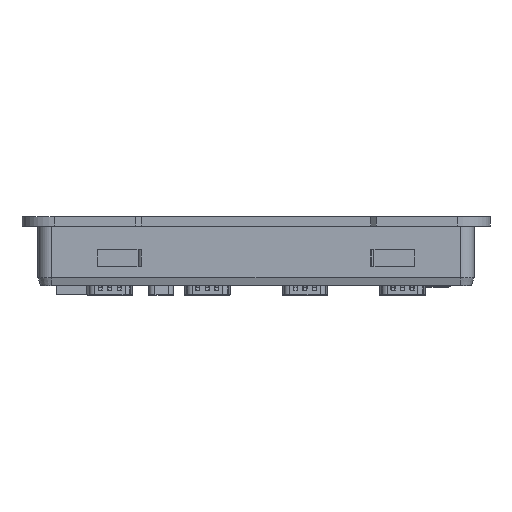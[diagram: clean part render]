
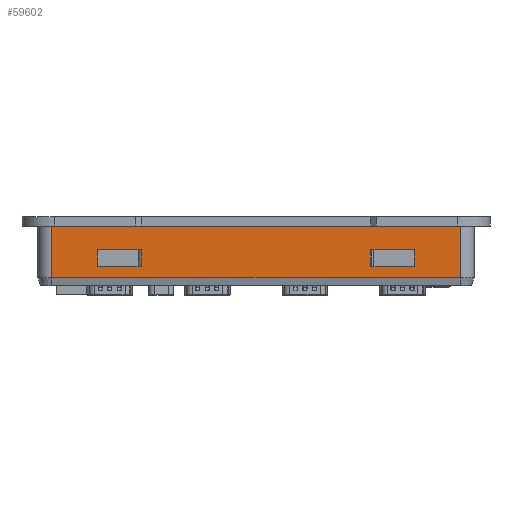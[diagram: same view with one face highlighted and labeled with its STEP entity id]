
A CAD part, left-side view. The second image highlights one B-rep face of the part: STEP entity #59602.
In plain terms, the highlighted planar face has unit normal (-1, 0, 0).
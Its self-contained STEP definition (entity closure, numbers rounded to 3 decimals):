
#3320=FACE_BOUND('',#14352,.T.);
#3321=FACE_BOUND('',#14353,.T.);
#10565=FACE_OUTER_BOUND('',#14351,.T.);
#14351=EDGE_LOOP('',(#53465,#53466,#53467,#53468));
#14352=EDGE_LOOP('',(#53469,#53470,#53471,#53472));
#14353=EDGE_LOOP('',(#53473,#53474,#53475,#53476));
#17976=LINE('',#152072,#22107);
#17979=LINE('',#152077,#22110);
#17981=LINE('',#152081,#22112);
#17983=LINE('',#152084,#22114);
#17988=LINE('',#152097,#22119);
#17991=LINE('',#152102,#22122);
#17994=LINE('',#152108,#22125);
#17997=LINE('',#152113,#22128);
#18282=LINE('',#153597,#22413);
#18337=LINE('',#153720,#22468);
#18342=LINE('',#153734,#22473);
#18344=LINE('',#153739,#22475);
#22107=VECTOR('',#78349,10.);
#22110=VECTOR('',#78354,10.);
#22112=VECTOR('',#78358,10.);
#22114=VECTOR('',#78362,10.);
#22119=VECTOR('',#78371,10.);
#22122=VECTOR('',#78376,10.);
#22125=VECTOR('',#78381,10.);
#22128=VECTOR('',#78386,10.);
#22413=VECTOR('',#78987,10.);
#22468=VECTOR('',#79110,10.);
#22473=VECTOR('',#79127,10.);
#22475=VECTOR('',#79133,10.);
#27894=VERTEX_POINT('',#152070);
#27895=VERTEX_POINT('',#152071);
#27896=VERTEX_POINT('',#152076);
#27897=VERTEX_POINT('',#152080);
#27902=VERTEX_POINT('',#152095);
#27903=VERTEX_POINT('',#152096);
#27904=VERTEX_POINT('',#152101);
#27906=VERTEX_POINT('',#152107);
#28167=VERTEX_POINT('',#153593);
#28168=VERTEX_POINT('',#153595);
#28202=VERTEX_POINT('',#153719);
#28205=VERTEX_POINT('',#153733);
#36250=EDGE_CURVE('',#27894,#27895,#17976,.T.);
#36253=EDGE_CURVE('',#27896,#27894,#17979,.T.);
#36255=EDGE_CURVE('',#27897,#27896,#17981,.T.);
#36257=EDGE_CURVE('',#27895,#27897,#17983,.T.);
#36262=EDGE_CURVE('',#27902,#27903,#17988,.T.);
#36265=EDGE_CURVE('',#27904,#27902,#17991,.T.);
#36268=EDGE_CURVE('',#27906,#27904,#17994,.T.);
#36271=EDGE_CURVE('',#27903,#27906,#17997,.T.);
#36680=EDGE_CURVE('',#28168,#28167,#18282,.T.);
#36741=EDGE_CURVE('',#28167,#28202,#18337,.T.);
#36748=EDGE_CURVE('',#28202,#28205,#18342,.T.);
#36751=EDGE_CURVE('',#28168,#28205,#18344,.T.);
#53465=ORIENTED_EDGE('',*,*,#36751,.T.);
#53466=ORIENTED_EDGE('',*,*,#36748,.F.);
#53467=ORIENTED_EDGE('',*,*,#36741,.F.);
#53468=ORIENTED_EDGE('',*,*,#36680,.F.);
#53469=ORIENTED_EDGE('',*,*,#36250,.T.);
#53470=ORIENTED_EDGE('',*,*,#36257,.T.);
#53471=ORIENTED_EDGE('',*,*,#36255,.T.);
#53472=ORIENTED_EDGE('',*,*,#36253,.T.);
#53473=ORIENTED_EDGE('',*,*,#36262,.T.);
#53474=ORIENTED_EDGE('',*,*,#36271,.T.);
#53475=ORIENTED_EDGE('',*,*,#36268,.T.);
#53476=ORIENTED_EDGE('',*,*,#36265,.T.);
#56263=PLANE('',#64964);
#59602=ADVANCED_FACE('',(#10565,#3320,#3321),#56263,.T.);
#64964=AXIS2_PLACEMENT_3D('',#153738,#79131,#79132);
#78349=DIRECTION('',(0.,0.,1.));
#78354=DIRECTION('',(0.,1.,0.));
#78358=DIRECTION('',(0.,0.,-1.));
#78362=DIRECTION('',(0.,-1.,0.));
#78371=DIRECTION('',(0.,0.,1.));
#78376=DIRECTION('',(0.,1.,0.));
#78381=DIRECTION('',(0.,0.,-1.));
#78386=DIRECTION('',(0.,-1.,0.));
#78987=DIRECTION('',(0.,0.,-1.));
#79110=DIRECTION('',(0.,1.,0.));
#79127=DIRECTION('',(0.,0.,1.));
#79131=DIRECTION('center_axis',(-1.,0.,0.));
#79132=DIRECTION('ref_axis',(0.,1.,0.));
#79133=DIRECTION('',(0.,1.,0.));
#152070=CARTESIAN_POINT('',(154.86,218.166,24.584));
#152071=CARTESIAN_POINT('',(154.86,218.166,30.784));
#152072=CARTESIAN_POINT('',(154.86,218.166,33.784));
#152076=CARTESIAN_POINT('',(154.86,202.166,24.584));
#152077=CARTESIAN_POINT('',(154.86,176.866,24.584));
#152080=CARTESIAN_POINT('',(154.86,202.166,30.784));
#152081=CARTESIAN_POINT('',(154.86,202.166,36.884));
#152084=CARTESIAN_POINT('',(154.86,184.866,30.784));
#152095=CARTESIAN_POINT('',(154.86,117.366,24.584));
#152096=CARTESIAN_POINT('',(154.86,117.366,30.784));
#152097=CARTESIAN_POINT('',(154.86,117.366,33.784));
#152101=CARTESIAN_POINT('',(154.86,101.366,24.584));
#152102=CARTESIAN_POINT('',(154.86,126.466,24.584));
#152107=CARTESIAN_POINT('',(154.86,101.366,30.784));
#152108=CARTESIAN_POINT('',(154.86,101.366,36.884));
#152113=CARTESIAN_POINT('',(154.86,134.466,30.784));
#153593=CARTESIAN_POINT('',(154.86,84.366,20.434));
#153595=CARTESIAN_POINT('',(154.86,84.366,40.984));
#153597=CARTESIAN_POINT('',(154.86,84.366,42.984));
#153719=CARTESIAN_POINT('',(154.86,235.166,20.434));
#153720=CARTESIAN_POINT('',(154.86,164.666,20.434));
#153733=CARTESIAN_POINT('',(154.86,235.166,40.984));
#153734=CARTESIAN_POINT('',(154.86,235.166,42.984));
#153738=CARTESIAN_POINT('Origin',(154.86,151.566,42.984));
#153739=CARTESIAN_POINT('',(154.86,240.166,40.984));
